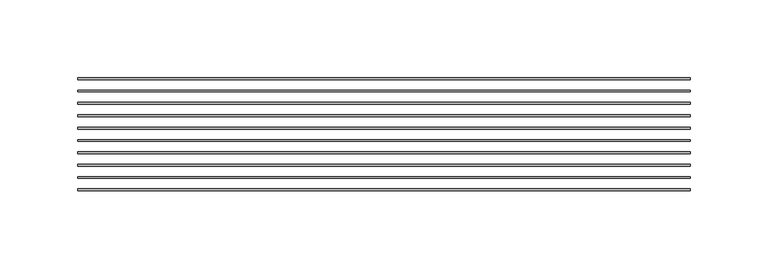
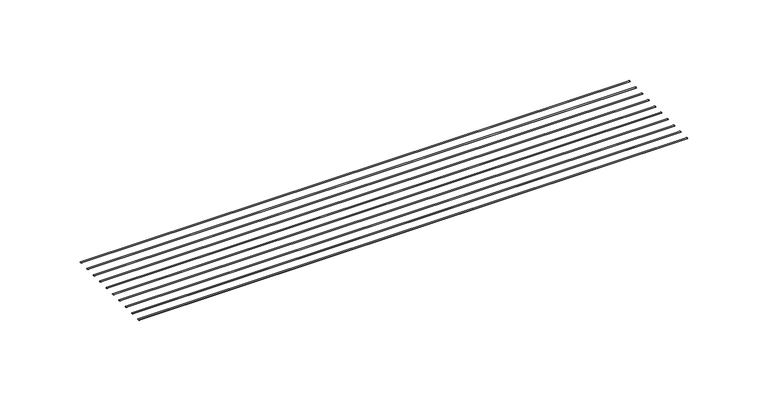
"""IFC4 building model written with IfcOpenShell, lengths in millimetres: proxy geometry, CRAi Generic Model Mesh Piece Face Based : CRAi Generic Model Mesh Piece Face Based."""

from ifc_helpers import new_model, si_unit, point, frame, origin, place, context, project, spatial, ellipse_curve, trimmed, source, transform, mapped, element, save
from ifc_brep_helpers import plane_surface, extruded_surface, advanced_brep


def generic_models_08e6521c(model_context):
    return source(origin(), model_context, "Body", "AdvancedBrep", [
        advanced_brep(
        [(-196.85, -79.6859798, -2.9765625), (-196.85, -80.8766048, -2.9765625), (196.85, -79.6859798, -2.9765625), (196.85, -80.8766048, -2.9765625)],
        [
            (0, 1, ellipse_curve(frame((-196.85, -80.2812923, -2.9765625), z_axis=(-1.0, 0.0, 0.0), x_axis=(0.0, -1.0, 0.0)), 0.5953125, 0.1984375)),
            (1, 0, ellipse_curve(frame((-196.85, -80.2812923, -2.9765625), z_axis=(-1.0, 0.0, 0.0), x_axis=(0.0, -1.0, 0.0)), 0.5953125, 0.1984375)),
            (2, 3, ellipse_curve(frame((196.85, -80.2812923, -2.9765625), z_axis=(1.0, 0.0, 0.0), x_axis=(0.0, -1.0, 0.0)), 0.5953125, 0.1984375)),
            (3, 2, ellipse_curve(frame((196.85, -80.2812923, -2.9765625), z_axis=(1.0, 0.0, 0.0), x_axis=(0.0, -1.0, 0.0)), 0.5953125, 0.1984375)),
            (0, 2),
            (3, 1),
        ],
        [
            plane_surface(frame((-196.85, -80.2812923, -2.9765625), z_axis=(-1.0, 0.0, 0.0), x_axis=(0.0, 0.0, 1.0))),
            plane_surface(frame((196.85, -80.2812923, -2.9765625), z_axis=(1.0, 0.0, 0.0), x_axis=(0.0, 0.0, 1.0))),
            extruded_surface(trimmed(ellipse_curve(frame((196.85, -80.2812923, -2.9765625), z_axis=(-1.0, 0.0, 0.0), x_axis=(0.0, -1.0, 0.0)), 0.5953125, 0.1984375), [point((196.85, -79.6859798, -2.9765625))], [point((196.85, -80.8766048, -2.9765625))], True, "CARTESIAN"), (-393.7, 0.0, 0.0), 393.7),
            extruded_surface(trimmed(ellipse_curve(frame((196.85, -80.2812923, -2.9765625), z_axis=(-1.0, 0.0, 0.0), x_axis=(0.0, -1.0, 0.0)), 0.5953125, 0.1984375), [point((196.85, -80.8766048, -2.9765625))], [point((196.85, -79.6859798, -2.9765625))], True, "CARTESIAN"), (-393.7, 0.0, 0.0), 393.7),
        ],
        [
            (0, [[1, 2]]),
            (1, [[3, 4]]),
            (2, [[-1, 5, -4, 6]]),
            (3, [[-2, -6, -3, -5]]),
        ],
    ),
        advanced_brep(
        [(-196.85, -87.6234798, -2.9765625), (-196.85, -88.8141048, -2.9765625), (196.85, -87.6234798, -2.9765625), (196.85, -88.8141048, -2.9765625)],
        [
            (0, 1, ellipse_curve(frame((-196.85, -88.2187923, -2.9765625), z_axis=(-1.0, 0.0, 0.0), x_axis=(0.0, -1.0, 0.0)), 0.5953125, 0.1984375)),
            (1, 0, ellipse_curve(frame((-196.85, -88.2187923, -2.9765625), z_axis=(-1.0, 0.0, 0.0), x_axis=(0.0, -1.0, 0.0)), 0.5953125, 0.1984375)),
            (2, 3, ellipse_curve(frame((196.85, -88.2187923, -2.9765625), z_axis=(1.0, 0.0, 0.0), x_axis=(0.0, -1.0, 0.0)), 0.5953125, 0.1984375)),
            (3, 2, ellipse_curve(frame((196.85, -88.2187923, -2.9765625), z_axis=(1.0, 0.0, 0.0), x_axis=(0.0, -1.0, 0.0)), 0.5953125, 0.1984375)),
            (0, 2),
            (3, 1),
        ],
        [
            plane_surface(frame((-196.85, -88.2187923, -2.9765625), z_axis=(-1.0, 0.0, 0.0), x_axis=(0.0, 0.0, 1.0))),
            plane_surface(frame((196.85, -88.2187923, -2.9765625), z_axis=(1.0, 0.0, 0.0), x_axis=(0.0, 0.0, 1.0))),
            extruded_surface(trimmed(ellipse_curve(frame((196.85, -88.2187923, -2.9765625), z_axis=(-1.0, 0.0, 0.0), x_axis=(0.0, -1.0, 0.0)), 0.5953125, 0.1984375), [point((196.85, -87.6234798, -2.9765625))], [point((196.85, -88.8141048, -2.9765625))], True, "CARTESIAN"), (-393.7, 0.0, 0.0), 393.7),
            extruded_surface(trimmed(ellipse_curve(frame((196.85, -88.2187923, -2.9765625), z_axis=(-1.0, 0.0, 0.0), x_axis=(0.0, -1.0, 0.0)), 0.5953125, 0.1984375), [point((196.85, -88.8141048, -2.9765625))], [point((196.85, -87.6234798, -2.9765625))], True, "CARTESIAN"), (-393.7, 0.0, 0.0), 393.7),
        ],
        [
            (0, [[1, 2]]),
            (1, [[3, 4]]),
            (2, [[-1, 5, -4, 6]]),
            (3, [[-2, -6, -3, -5]]),
        ],
    ),
        advanced_brep(
        [(-196.85, -95.5609798, -2.9765625), (-196.85, -96.7516048, -2.9765625), (196.85, -95.5609798, -2.9765625), (196.85, -96.7516048, -2.9765625)],
        [
            (0, 1, ellipse_curve(frame((-196.85, -96.1562923, -2.9765625), z_axis=(-1.0, 0.0, 0.0), x_axis=(0.0, -1.0, 0.0)), 0.5953125, 0.1984375)),
            (1, 0, ellipse_curve(frame((-196.85, -96.1562923, -2.9765625), z_axis=(-1.0, 0.0, 0.0), x_axis=(0.0, -1.0, 0.0)), 0.5953125, 0.1984375)),
            (2, 3, ellipse_curve(frame((196.85, -96.1562923, -2.9765625), z_axis=(1.0, 0.0, 0.0), x_axis=(0.0, -1.0, 0.0)), 0.5953125, 0.1984375)),
            (3, 2, ellipse_curve(frame((196.85, -96.1562923, -2.9765625), z_axis=(1.0, 0.0, 0.0), x_axis=(0.0, -1.0, 0.0)), 0.5953125, 0.1984375)),
            (0, 2),
            (3, 1),
        ],
        [
            plane_surface(frame((-196.85, -96.1562923, -2.9765625), z_axis=(-1.0, 0.0, 0.0), x_axis=(0.0, 0.0, 1.0))),
            plane_surface(frame((196.85, -96.1562923, -2.9765625), z_axis=(1.0, 0.0, 0.0), x_axis=(0.0, 0.0, 1.0))),
            extruded_surface(trimmed(ellipse_curve(frame((196.85, -96.1562923, -2.9765625), z_axis=(-1.0, 0.0, 0.0), x_axis=(0.0, -1.0, 0.0)), 0.5953125, 0.1984375), [point((196.85, -95.5609798, -2.9765625))], [point((196.85, -96.7516048, -2.9765625))], True, "CARTESIAN"), (-393.7, 0.0, 0.0), 393.7),
            extruded_surface(trimmed(ellipse_curve(frame((196.85, -96.1562923, -2.9765625), z_axis=(-1.0, 0.0, 0.0), x_axis=(0.0, -1.0, 0.0)), 0.5953125, 0.1984375), [point((196.85, -96.7516048, -2.9765625))], [point((196.85, -95.5609798, -2.9765625))], True, "CARTESIAN"), (-393.7, 0.0, 0.0), 393.7),
        ],
        [
            (0, [[1, 2]]),
            (1, [[3, 4]]),
            (2, [[-1, 5, -4, 6]]),
            (3, [[-2, -6, -3, -5]]),
        ],
    ),
        advanced_brep(
        [(-196.85, -103.4984798, -2.9765625), (-196.85, -104.6891048, -2.9765625), (196.85, -103.4984798, -2.9765625), (196.85, -104.6891048, -2.9765625)],
        [
            (0, 1, ellipse_curve(frame((-196.85, -104.0937923, -2.9765625), z_axis=(-1.0, 0.0, 0.0), x_axis=(0.0, -1.0, 0.0)), 0.5953125, 0.1984375)),
            (1, 0, ellipse_curve(frame((-196.85, -104.0937923, -2.9765625), z_axis=(-1.0, 0.0, 0.0), x_axis=(0.0, -1.0, 0.0)), 0.5953125, 0.1984375)),
            (2, 3, ellipse_curve(frame((196.85, -104.0937923, -2.9765625), z_axis=(1.0, 0.0, 0.0), x_axis=(0.0, -1.0, 0.0)), 0.5953125, 0.1984375)),
            (3, 2, ellipse_curve(frame((196.85, -104.0937923, -2.9765625), z_axis=(1.0, 0.0, 0.0), x_axis=(0.0, -1.0, 0.0)), 0.5953125, 0.1984375)),
            (0, 2),
            (3, 1),
        ],
        [
            plane_surface(frame((-196.85, -104.0937923, -2.9765625), z_axis=(-1.0, 0.0, 0.0), x_axis=(0.0, 0.0, 1.0))),
            plane_surface(frame((196.85, -104.0937923, -2.9765625), z_axis=(1.0, 0.0, 0.0), x_axis=(0.0, 0.0, 1.0))),
            extruded_surface(trimmed(ellipse_curve(frame((196.85, -104.0937923, -2.9765625), z_axis=(-1.0, 0.0, 0.0), x_axis=(0.0, -1.0, 0.0)), 0.5953125, 0.1984375), [point((196.85, -103.4984798, -2.9765625))], [point((196.85, -104.6891048, -2.9765625))], True, "CARTESIAN"), (-393.7, 0.0, 0.0), 393.7),
            extruded_surface(trimmed(ellipse_curve(frame((196.85, -104.0937923, -2.9765625), z_axis=(-1.0, 0.0, 0.0), x_axis=(0.0, -1.0, 0.0)), 0.5953125, 0.1984375), [point((196.85, -104.6891048, -2.9765625))], [point((196.85, -103.4984798, -2.9765625))], True, "CARTESIAN"), (-393.7, 0.0, 0.0), 393.7),
        ],
        [
            (0, [[1, 2]]),
            (1, [[3, 4]]),
            (2, [[-1, 5, -4, 6]]),
            (3, [[-2, -6, -3, -5]]),
        ],
    ),
        advanced_brep(
        [(-196.85, -111.4359798, -2.9765625), (-196.85, -112.6266048, -2.9765625), (196.85, -111.4359798, -2.9765625), (196.85, -112.6266048, -2.9765625)],
        [
            (0, 1, ellipse_curve(frame((-196.85, -112.0312923, -2.9765625), z_axis=(-1.0, 0.0, 0.0), x_axis=(0.0, -1.0, 0.0)), 0.5953125, 0.1984375)),
            (1, 0, ellipse_curve(frame((-196.85, -112.0312923, -2.9765625), z_axis=(-1.0, 0.0, 0.0), x_axis=(0.0, -1.0, 0.0)), 0.5953125, 0.1984375)),
            (2, 3, ellipse_curve(frame((196.85, -112.0312923, -2.9765625), z_axis=(1.0, 0.0, 0.0), x_axis=(0.0, -1.0, 0.0)), 0.5953125, 0.1984375)),
            (3, 2, ellipse_curve(frame((196.85, -112.0312923, -2.9765625), z_axis=(1.0, 0.0, 0.0), x_axis=(0.0, -1.0, 0.0)), 0.5953125, 0.1984375)),
            (0, 2),
            (3, 1),
        ],
        [
            plane_surface(frame((-196.85, -112.0312923, -2.9765625), z_axis=(-1.0, 0.0, 0.0), x_axis=(0.0, 0.0, 1.0))),
            plane_surface(frame((196.85, -112.0312923, -2.9765625), z_axis=(1.0, 0.0, 0.0), x_axis=(0.0, 0.0, 1.0))),
            extruded_surface(trimmed(ellipse_curve(frame((196.85, -112.0312923, -2.9765625), z_axis=(-1.0, 0.0, 0.0), x_axis=(0.0, -1.0, 0.0)), 0.5953125, 0.1984375), [point((196.85, -111.4359798, -2.9765625))], [point((196.85, -112.6266048, -2.9765625))], True, "CARTESIAN"), (-393.7, 0.0, 0.0), 393.7),
            extruded_surface(trimmed(ellipse_curve(frame((196.85, -112.0312923, -2.9765625), z_axis=(-1.0, 0.0, 0.0), x_axis=(0.0, -1.0, 0.0)), 0.5953125, 0.1984375), [point((196.85, -112.6266048, -2.9765625))], [point((196.85, -111.4359798, -2.9765625))], True, "CARTESIAN"), (-393.7, 0.0, 0.0), 393.7),
        ],
        [
            (0, [[1, 2]]),
            (1, [[3, 4]]),
            (2, [[-1, 5, -4, 6]]),
            (3, [[-2, -6, -3, -5]]),
        ],
    ),
        advanced_brep(
        [(-196.85, -119.3734798, -2.9765625), (-196.85, -120.5641048, -2.9765625), (196.85, -119.3734798, -2.9765625), (196.85, -120.5641048, -2.9765625)],
        [
            (0, 1, ellipse_curve(frame((-196.85, -119.9687923, -2.9765625), z_axis=(-1.0, 0.0, 0.0), x_axis=(0.0, -1.0, 0.0)), 0.5953125, 0.1984375)),
            (1, 0, ellipse_curve(frame((-196.85, -119.9687923, -2.9765625), z_axis=(-1.0, 0.0, 0.0), x_axis=(0.0, -1.0, 0.0)), 0.5953125, 0.1984375)),
            (2, 3, ellipse_curve(frame((196.85, -119.9687923, -2.9765625), z_axis=(1.0, 0.0, 0.0), x_axis=(0.0, -1.0, 0.0)), 0.5953125, 0.1984375)),
            (3, 2, ellipse_curve(frame((196.85, -119.9687923, -2.9765625), z_axis=(1.0, 0.0, 0.0), x_axis=(0.0, -1.0, 0.0)), 0.5953125, 0.1984375)),
            (0, 2),
            (3, 1),
        ],
        [
            plane_surface(frame((-196.85, -119.9687923, -2.9765625), z_axis=(-1.0, 0.0, 0.0), x_axis=(0.0, 0.0, 1.0))),
            plane_surface(frame((196.85, -119.9687923, -2.9765625), z_axis=(1.0, 0.0, 0.0), x_axis=(0.0, 0.0, 1.0))),
            extruded_surface(trimmed(ellipse_curve(frame((196.85, -119.9687923, -2.9765625), z_axis=(-1.0, 0.0, 0.0), x_axis=(0.0, -1.0, 0.0)), 0.5953125, 0.1984375), [point((196.85, -119.3734798, -2.9765625))], [point((196.85, -120.5641048, -2.9765625))], True, "CARTESIAN"), (-393.7, 0.0, 0.0), 393.7),
            extruded_surface(trimmed(ellipse_curve(frame((196.85, -119.9687923, -2.9765625), z_axis=(-1.0, 0.0, 0.0), x_axis=(0.0, -1.0, 0.0)), 0.5953125, 0.1984375), [point((196.85, -120.5641048, -2.9765625))], [point((196.85, -119.3734798, -2.9765625))], True, "CARTESIAN"), (-393.7, 0.0, 0.0), 393.7),
        ],
        [
            (0, [[1, 2]]),
            (1, [[3, 4]]),
            (2, [[-1, 5, -4, 6]]),
            (3, [[-2, -6, -3, -5]]),
        ],
    ),
        advanced_brep(
        [(-196.85, -127.3109798, -2.9765625), (-196.85, -128.5016048, -2.9765625), (196.85, -127.3109798, -2.9765625), (196.85, -128.5016048, -2.9765625)],
        [
            (0, 1, ellipse_curve(frame((-196.85, -127.9062923, -2.9765625), z_axis=(-1.0, 0.0, 0.0), x_axis=(0.0, -1.0, 0.0)), 0.5953125, 0.1984375)),
            (1, 0, ellipse_curve(frame((-196.85, -127.9062923, -2.9765625), z_axis=(-1.0, 0.0, 0.0), x_axis=(0.0, -1.0, 0.0)), 0.5953125, 0.1984375)),
            (2, 3, ellipse_curve(frame((196.85, -127.9062923, -2.9765625), z_axis=(1.0, 0.0, 0.0), x_axis=(0.0, -1.0, 0.0)), 0.5953125, 0.1984375)),
            (3, 2, ellipse_curve(frame((196.85, -127.9062923, -2.9765625), z_axis=(1.0, 0.0, 0.0), x_axis=(0.0, -1.0, 0.0)), 0.5953125, 0.1984375)),
            (0, 2),
            (3, 1),
        ],
        [
            plane_surface(frame((-196.85, -127.9062923, -2.9765625), z_axis=(-1.0, 0.0, 0.0), x_axis=(0.0, 0.0, 1.0))),
            plane_surface(frame((196.85, -127.9062923, -2.9765625), z_axis=(1.0, 0.0, 0.0), x_axis=(0.0, 0.0, 1.0))),
            extruded_surface(trimmed(ellipse_curve(frame((196.85, -127.9062923, -2.9765625), z_axis=(-1.0, 0.0, 0.0), x_axis=(0.0, -1.0, 0.0)), 0.5953125, 0.1984375), [point((196.85, -127.3109798, -2.9765625))], [point((196.85, -128.5016048, -2.9765625))], True, "CARTESIAN"), (-393.7, 0.0, 0.0), 393.7),
            extruded_surface(trimmed(ellipse_curve(frame((196.85, -127.9062923, -2.9765625), z_axis=(-1.0, 0.0, 0.0), x_axis=(0.0, -1.0, 0.0)), 0.5953125, 0.1984375), [point((196.85, -128.5016048, -2.9765625))], [point((196.85, -127.3109798, -2.9765625))], True, "CARTESIAN"), (-393.7, 0.0, 0.0), 393.7),
        ],
        [
            (0, [[1, 2]]),
            (1, [[3, 4]]),
            (2, [[-1, 5, -4, 6]]),
            (3, [[-2, -6, -3, -5]]),
        ],
    ),
        advanced_brep(
        [(-196.85, -135.2484798, -2.9765625), (-196.85, -136.4391048, -2.9765625), (196.85, -135.2484798, -2.9765625), (196.85, -136.4391048, -2.9765625)],
        [
            (0, 1, ellipse_curve(frame((-196.85, -135.8437923, -2.9765625), z_axis=(-1.0, 0.0, 0.0), x_axis=(0.0, -1.0, 0.0)), 0.5953125, 0.1984375)),
            (1, 0, ellipse_curve(frame((-196.85, -135.8437923, -2.9765625), z_axis=(-1.0, 0.0, 0.0), x_axis=(0.0, -1.0, 0.0)), 0.5953125, 0.1984375)),
            (2, 3, ellipse_curve(frame((196.85, -135.8437923, -2.9765625), z_axis=(1.0, 0.0, 0.0), x_axis=(0.0, -1.0, 0.0)), 0.5953125, 0.1984375)),
            (3, 2, ellipse_curve(frame((196.85, -135.8437923, -2.9765625), z_axis=(1.0, 0.0, 0.0), x_axis=(0.0, -1.0, 0.0)), 0.5953125, 0.1984375)),
            (0, 2),
            (3, 1),
        ],
        [
            plane_surface(frame((-196.85, -135.8437923, -2.9765625), z_axis=(-1.0, 0.0, 0.0), x_axis=(0.0, 0.0, 1.0))),
            plane_surface(frame((196.85, -135.8437923, -2.9765625), z_axis=(1.0, 0.0, 0.0), x_axis=(0.0, 0.0, 1.0))),
            extruded_surface(trimmed(ellipse_curve(frame((196.85, -135.8437923, -2.9765625), z_axis=(-1.0, 0.0, 0.0), x_axis=(0.0, -1.0, 0.0)), 0.5953125, 0.1984375), [point((196.85, -135.2484798, -2.9765625))], [point((196.85, -136.4391048, -2.9765625))], True, "CARTESIAN"), (-393.7, 0.0, 0.0), 393.7),
            extruded_surface(trimmed(ellipse_curve(frame((196.85, -135.8437923, -2.9765625), z_axis=(-1.0, 0.0, 0.0), x_axis=(0.0, -1.0, 0.0)), 0.5953125, 0.1984375), [point((196.85, -136.4391048, -2.9765625))], [point((196.85, -135.2484798, -2.9765625))], True, "CARTESIAN"), (-393.7, 0.0, 0.0), 393.7),
        ],
        [
            (0, [[1, 2]]),
            (1, [[3, 4]]),
            (2, [[-1, 5, -4, 6]]),
            (3, [[-2, -6, -3, -5]]),
        ],
    ),
        advanced_brep(
        [(-196.85, -143.1859798, -2.9765625), (-196.85, -144.3766048, -2.9765625), (196.85, -143.1859798, -2.9765625), (196.85, -144.3766048, -2.9765625)],
        [
            (0, 1, ellipse_curve(frame((-196.85, -143.7812923, -2.9765625), z_axis=(-1.0, 0.0, 0.0), x_axis=(0.0, -1.0, 0.0)), 0.5953125, 0.1984375)),
            (1, 0, ellipse_curve(frame((-196.85, -143.7812923, -2.9765625), z_axis=(-1.0, 0.0, 0.0), x_axis=(0.0, -1.0, 0.0)), 0.5953125, 0.1984375)),
            (2, 3, ellipse_curve(frame((196.85, -143.7812923, -2.9765625), z_axis=(1.0, 0.0, 0.0), x_axis=(0.0, -1.0, 0.0)), 0.5953125, 0.1984375)),
            (3, 2, ellipse_curve(frame((196.85, -143.7812923, -2.9765625), z_axis=(1.0, 0.0, 0.0), x_axis=(0.0, -1.0, 0.0)), 0.5953125, 0.1984375)),
            (0, 2),
            (3, 1),
        ],
        [
            plane_surface(frame((-196.85, -143.7812923, -2.9765625), z_axis=(-1.0, 0.0, 0.0), x_axis=(0.0, 0.0, 1.0))),
            plane_surface(frame((196.85, -143.7812923, -2.9765625), z_axis=(1.0, 0.0, 0.0), x_axis=(0.0, 0.0, 1.0))),
            extruded_surface(trimmed(ellipse_curve(frame((196.85, -143.7812923, -2.9765625), z_axis=(-1.0, 0.0, 0.0), x_axis=(0.0, -1.0, 0.0)), 0.5953125, 0.1984375), [point((196.85, -143.1859798, -2.9765625))], [point((196.85, -144.3766048, -2.9765625))], True, "CARTESIAN"), (-393.7, 0.0, 0.0), 393.7),
            extruded_surface(trimmed(ellipse_curve(frame((196.85, -143.7812923, -2.9765625), z_axis=(-1.0, 0.0, 0.0), x_axis=(0.0, -1.0, 0.0)), 0.5953125, 0.1984375), [point((196.85, -144.3766048, -2.9765625))], [point((196.85, -143.1859798, -2.9765625))], True, "CARTESIAN"), (-393.7, 0.0, 0.0), 393.7),
        ],
        [
            (0, [[1, 2]]),
            (1, [[3, 4]]),
            (2, [[-1, 5, -4, 6]]),
            (3, [[-2, -6, -3, -5]]),
        ],
    ),
        advanced_brep(
        [(-196.85, -151.1234798, -2.9765625), (-196.85, -152.3141048, -2.9765625), (196.85, -151.1234798, -2.9765625), (196.85, -152.3141048, -2.9765625)],
        [
            (0, 1, ellipse_curve(frame((-196.85, -151.7187923, -2.9765625), z_axis=(-1.0, 0.0, 0.0), x_axis=(0.0, -1.0, 0.0)), 0.5953125, 0.1984375)),
            (1, 0, ellipse_curve(frame((-196.85, -151.7187923, -2.9765625), z_axis=(-1.0, 0.0, 0.0), x_axis=(0.0, -1.0, 0.0)), 0.5953125, 0.1984375)),
            (2, 3, ellipse_curve(frame((196.85, -151.7187923, -2.9765625), z_axis=(1.0, 0.0, 0.0), x_axis=(0.0, -1.0, 0.0)), 0.5953125, 0.1984375)),
            (3, 2, ellipse_curve(frame((196.85, -151.7187923, -2.9765625), z_axis=(1.0, 0.0, 0.0), x_axis=(0.0, -1.0, 0.0)), 0.5953125, 0.1984375)),
            (0, 2),
            (3, 1),
        ],
        [
            plane_surface(frame((-196.85, -151.7187923, -2.9765625), z_axis=(-1.0, 0.0, 0.0), x_axis=(0.0, 0.0, 1.0))),
            plane_surface(frame((196.85, -151.7187923, -2.9765625), z_axis=(1.0, 0.0, 0.0), x_axis=(0.0, 0.0, 1.0))),
            extruded_surface(trimmed(ellipse_curve(frame((196.85, -151.7187923, -2.9765625), z_axis=(-1.0, 0.0, 0.0), x_axis=(0.0, -1.0, 0.0)), 0.5953125, 0.1984375), [point((196.85, -151.1234798, -2.9765625))], [point((196.85, -152.3141048, -2.9765625))], True, "CARTESIAN"), (-393.7, 0.0, 0.0), 393.7),
            extruded_surface(trimmed(ellipse_curve(frame((196.85, -151.7187923, -2.9765625), z_axis=(-1.0, 0.0, 0.0), x_axis=(0.0, -1.0, 0.0)), 0.5953125, 0.1984375), [point((196.85, -152.3141048, -2.9765625))], [point((196.85, -151.1234798, -2.9765625))], True, "CARTESIAN"), (-393.7, 0.0, 0.0), 393.7),
        ],
        [
            (0, [[1, 2]]),
            (1, [[3, 4]]),
            (2, [[-1, 5, -4, 6]]),
            (3, [[-2, -6, -3, -5]]),
        ],
    ),
    ])


if __name__ == "__main__":
    model = new_model("IFC4")
    model_context = context("Model", 3, world=origin())
    ifc_project = project(units=[si_unit("LENGTHUNIT", "METRE", prefix="MILLI")], contexts=[model_context])
    site = spatial("IfcSite", under=ifc_project)
    building = spatial("IfcBuilding", under=site)
    placement = place(None, origin())
    generic_models_shape = generic_models_08e6521c(model_context)
    element("IfcBuildingElementProxy", 1, Name="CRAi Generic Model Mesh Piece Face Based : CRAi Generic Model Mesh Piece Face Based", ObjectType="CRAi Generic Model Mesh Piece Face Based : CRAi Generic Model Mesh Piece Face Based", at=placement, inside=building, context=model_context, shape_type="MappedRepresentation", body=[
        mapped(generic_models_shape, transform((0.0, 0.0, 0.0), x_axis=(1.0, 0.0, 0.0), y_axis=(0.0, 1.0, 0.0), z_axis=(0.0, 0.0, 1.0))),
    ])
    save(model, "model.ifc")
